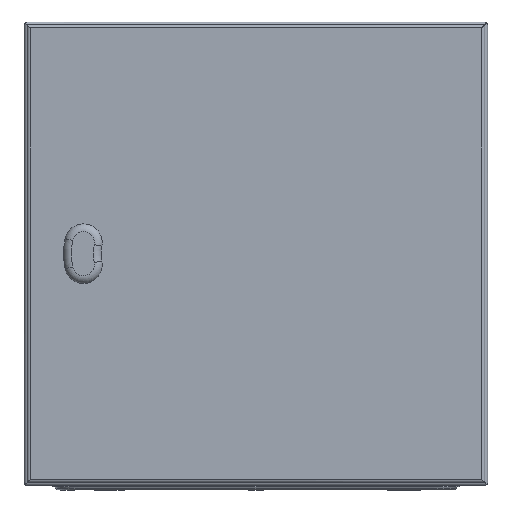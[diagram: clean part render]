
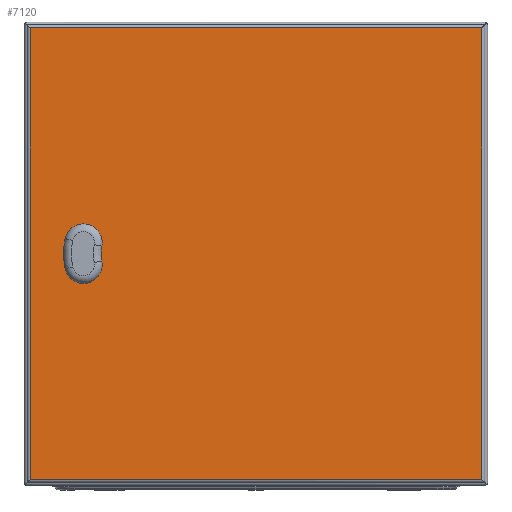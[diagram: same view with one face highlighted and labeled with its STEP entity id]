
A CAD part, front view. The second image highlights one B-rep face of the part: STEP entity #7120.
In plain terms, the highlighted planar face has unit normal (0, -1, 0).
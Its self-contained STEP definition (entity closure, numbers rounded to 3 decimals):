
#542=LINE('',#11659,#942);
#543=LINE('',#11662,#943);
#544=LINE('',#11664,#944);
#545=LINE('',#11666,#945);
#942=VECTOR('',#9308,1000.);
#943=VECTOR('',#9309,1000.);
#944=VECTOR('',#9310,1000.);
#945=VECTOR('',#9311,1000.);
#1772=ORIENTED_EDGE('',*,*,#3338,.F.);
#1773=ORIENTED_EDGE('',*,*,#3339,.T.);
#1774=ORIENTED_EDGE('',*,*,#3340,.T.);
#1775=ORIENTED_EDGE('',*,*,#3341,.T.);
#1776=ORIENTED_EDGE('',*,*,#3342,.F.);
#1777=ORIENTED_EDGE('',*,*,#3343,.F.);
#1778=ORIENTED_EDGE('',*,*,#3344,.T.);
#1779=ORIENTED_EDGE('',*,*,#3345,.T.);
#3338=EDGE_CURVE('',#4172,#4173,#4732,.T.);
#3339=EDGE_CURVE('',#4172,#4174,#4733,.T.);
#3340=EDGE_CURVE('',#4174,#4175,#4734,.T.);
#3341=EDGE_CURVE('',#4175,#4173,#4735,.T.);
#3342=EDGE_CURVE('',#4176,#4177,#542,.F.);
#3343=EDGE_CURVE('',#4178,#4176,#543,.T.);
#3344=EDGE_CURVE('',#4178,#4179,#544,.F.);
#3345=EDGE_CURVE('',#4179,#4177,#545,.T.);
#4172=VERTEX_POINT('',#11652);
#4173=VERTEX_POINT('',#11653);
#4174=VERTEX_POINT('',#11655);
#4175=VERTEX_POINT('',#11657);
#4176=VERTEX_POINT('',#11660);
#4177=VERTEX_POINT('',#11661);
#4178=VERTEX_POINT('',#11663);
#4179=VERTEX_POINT('',#11665);
#4732=CIRCLE('',#7816,34.3);
#4733=CIRCLE('',#7817,16.2);
#4734=CIRCLE('',#7818,60.7);
#4735=CIRCLE('',#7819,16.2);
#5320=EDGE_LOOP('',(#1772,#1773,#1774,#1775));
#5321=EDGE_LOOP('',(#1776,#1777,#1778,#1779));
#6172=FACE_BOUND('',#5320,.T.);
#6173=FACE_BOUND('',#5321,.T.);
#6848=PLANE('',#7815);
#7120=ADVANCED_FACE('',(#6172,#6173),#6848,.F.);
#7815=AXIS2_PLACEMENT_3D('',#11650,#9298,#9299);
#7816=AXIS2_PLACEMENT_3D('',#11651,#9300,#9301);
#7817=AXIS2_PLACEMENT_3D('',#11654,#9302,#9303);
#7818=AXIS2_PLACEMENT_3D('',#11656,#9304,#9305);
#7819=AXIS2_PLACEMENT_3D('',#11658,#9306,#9307);
#9298=DIRECTION('',(0.,1.,0.));
#9299=DIRECTION('',(0.,0.,1.));
#9300=DIRECTION('',(0.,1.,0.));
#9301=DIRECTION('',(1.,0.,0.));
#9302=DIRECTION('',(0.,1.,0.));
#9303=DIRECTION('',(1.,0.,0.));
#9304=DIRECTION('',(0.,1.,0.));
#9305=DIRECTION('',(1.,0.,0.));
#9306=DIRECTION('',(0.,1.,0.));
#9307=DIRECTION('',(1.,0.,0.));
#9308=DIRECTION('',(0.,0.,-1.));
#9309=DIRECTION('',(-1.,0.,0.));
#9310=DIRECTION('',(0.,0.,-1.));
#9311=DIRECTION('',(-1.,0.,0.));
#11650=CARTESIAN_POINT('',(0.,-16.5,0.));
#11651=CARTESIAN_POINT('',(-99.402,-16.5,0.));
#11652=CARTESIAN_POINT('',(-133.089,-16.5,-6.452));
#11653=CARTESIAN_POINT('',(-133.089,-16.5,6.452));
#11654=CARTESIAN_POINT('',(-149.,-16.5,-9.5));
#11655=CARTESIAN_POINT('',(-164.827,-16.5,-12.958));
#11656=CARTESIAN_POINT('',(-105.526,-16.5,0.));
#11657=CARTESIAN_POINT('',(-164.827,-16.5,12.958));
#11658=CARTESIAN_POINT('',(-149.,-16.5,9.5));
#11659=CARTESIAN_POINT('',(-195.,-16.5,200.));
#11660=CARTESIAN_POINT('',(-195.,-16.5,-195.));
#11661=CARTESIAN_POINT('',(-195.,-16.5,195.));
#11662=CARTESIAN_POINT('',(200.,-16.5,-195.));
#11663=CARTESIAN_POINT('',(195.,-16.5,-195.));
#11664=CARTESIAN_POINT('',(195.,-16.5,200.));
#11665=CARTESIAN_POINT('',(195.,-16.5,195.));
#11666=CARTESIAN_POINT('',(200.,-16.5,195.));
